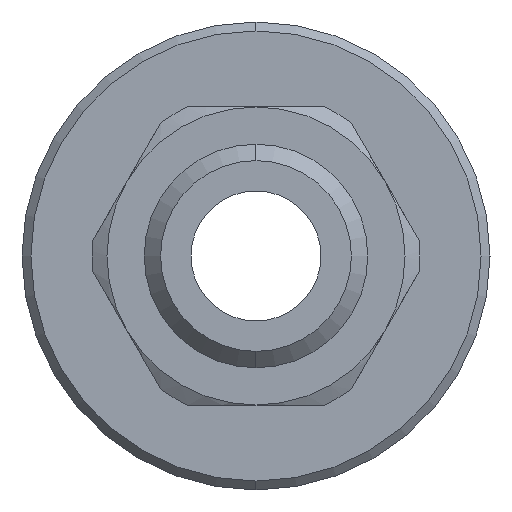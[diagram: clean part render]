
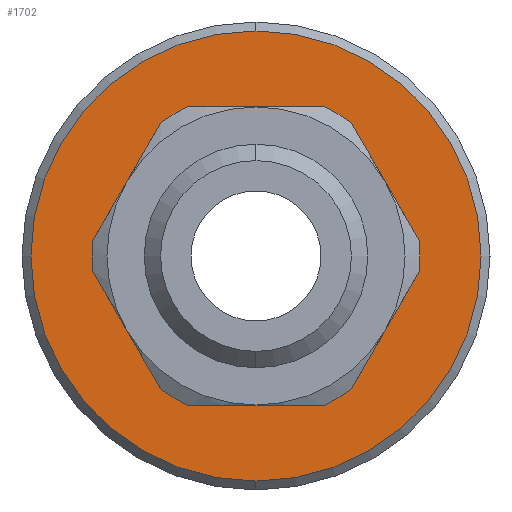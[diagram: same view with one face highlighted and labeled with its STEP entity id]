
A CAD part, left-side view. The second image highlights one B-rep face of the part: STEP entity #1702.
In plain terms, the highlighted planar face has unit normal (-1, 0, 0).
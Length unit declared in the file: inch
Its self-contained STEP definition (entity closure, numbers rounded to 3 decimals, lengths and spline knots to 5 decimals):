
#57 = CIRCLE ( 'NONE', #218, 0.3775 ) ;
#58 = AXIS2_PLACEMENT_3D ( 'NONE', #763, #761, #758 ) ;
#65 = CIRCLE ( 'NONE', #58, 0.2475 ) ;
#152 = AXIS2_PLACEMENT_3D ( 'NONE', #1296, #1275, #1276 ) ;
#177 = CIRCLE ( 'NONE', #152, 0.2475 ) ;
#218 = AXIS2_PLACEMENT_3D ( 'NONE', #1865, #1857, #1879 ) ;
#244 = AXIS2_PLACEMENT_3D ( 'NONE', #1257, #861, #354 ) ;
#354 = DIRECTION ( 'NONE',  ( 0., 0., 1. ) ) ;
#470 = AXIS2_PLACEMENT_3D ( 'NONE', #1546, #1547, #1548 ) ;
#481 = CIRCLE ( 'NONE', #470, 0.3775 ) ;
#563 = ORIENTED_EDGE ( 'NONE', *, *, #2098, .T. ) ;
#700 = ORIENTED_EDGE ( 'NONE', *, *, #1781, .T. ) ;
#758 = DIRECTION ( 'NONE',  ( 0., 0., 1. ) ) ;
#761 = DIRECTION ( 'NONE',  ( -1., 0., 0. ) ) ;
#763 = CARTESIAN_POINT ( 'NONE',  ( -0.56871, 0.99966, -0.58617 ) ) ;
#824 = FACE_BOUND ( 'NONE', #1213, .T. ) ;
#841 = FACE_OUTER_BOUND ( 'NONE', #1124, .T. ) ;
#861 = DIRECTION ( 'NONE',  ( -1., 0., 0. ) ) ;
#880 = CARTESIAN_POINT ( 'NONE',  ( -0.56871, 0.99966, -0.83367 ) ) ;
#915 = CARTESIAN_POINT ( 'NONE',  ( -0.56871, 0.99966, -0.20867 ) ) ;
#950 = CARTESIAN_POINT ( 'NONE',  ( -0.56871, 0.99966, -0.96367 ) ) ;
#1045 = ORIENTED_EDGE ( 'NONE', *, *, #1774, .F. ) ;
#1047 = ORIENTED_EDGE ( 'NONE', *, *, #1826, .F. ) ;
#1124 = EDGE_LOOP ( 'NONE', ( #700, #563 ) ) ;
#1140 = VERTEX_POINT ( 'NONE', #1216 ) ;
#1178 = PLANE ( 'NONE',  #244 ) ;
#1189 = VERTEX_POINT ( 'NONE', #880 ) ;
#1201 = VERTEX_POINT ( 'NONE', #915 ) ;
#1213 = EDGE_LOOP ( 'NONE', ( #1047, #1045 ) ) ;
#1216 = CARTESIAN_POINT ( 'NONE',  ( -0.56871, 0.99966, -0.33867 ) ) ;
#1224 = VERTEX_POINT ( 'NONE', #950 ) ;
#1257 = CARTESIAN_POINT ( 'NONE',  ( -0.56871, 0.99966, -0.58617 ) ) ;
#1275 = DIRECTION ( 'NONE',  ( -1., 0., 0. ) ) ;
#1276 = DIRECTION ( 'NONE',  ( 0., 0., 1. ) ) ;
#1296 = CARTESIAN_POINT ( 'NONE',  ( -0.56871, 0.99966, -0.58617 ) ) ;
#1546 = CARTESIAN_POINT ( 'NONE',  ( -0.56871, 0.99966, -0.58617 ) ) ;
#1547 = DIRECTION ( 'NONE',  ( -1., 0., 0. ) ) ;
#1548 = DIRECTION ( 'NONE',  ( 0., 0., 1. ) ) ;
#1702 = ADVANCED_FACE ( 'NONE', ( #841, #824 ), #1178, .T. ) ;
#1774 = EDGE_CURVE ( 'NONE', #1189, #1140, #65, .T. ) ;
#1781 = EDGE_CURVE ( 'NONE', #1224, #1201, #57, .T. ) ;
#1826 = EDGE_CURVE ( 'NONE', #1140, #1189, #177, .T. ) ;
#1857 = DIRECTION ( 'NONE',  ( -1., 0., 0. ) ) ;
#1865 = CARTESIAN_POINT ( 'NONE',  ( -0.56871, 0.99966, -0.58617 ) ) ;
#1879 = DIRECTION ( 'NONE',  ( 0., 0., 1. ) ) ;
#2098 = EDGE_CURVE ( 'NONE', #1201, #1224, #481, .T. ) ;
